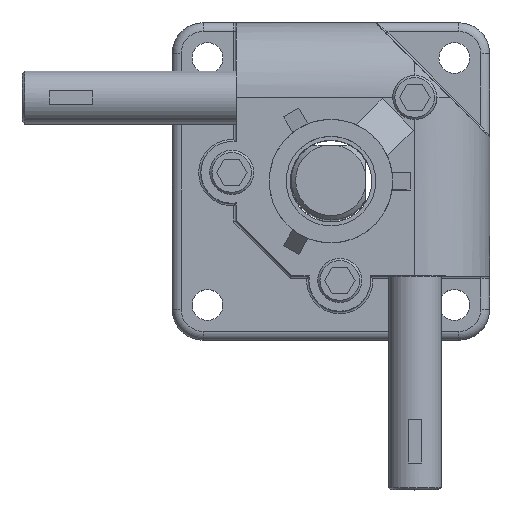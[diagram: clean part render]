
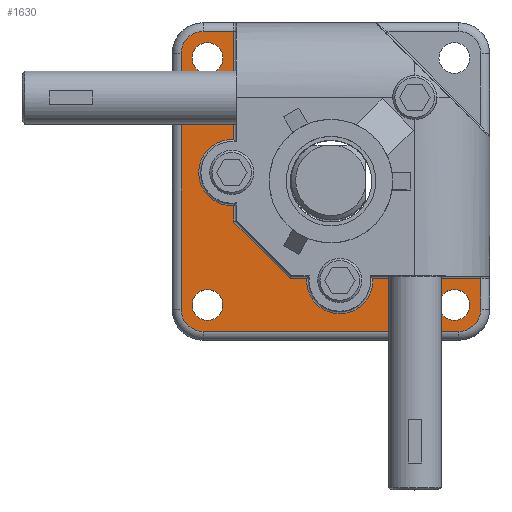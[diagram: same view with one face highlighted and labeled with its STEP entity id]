
A CAD part, top view. The second image highlights one B-rep face of the part: STEP entity #1630.
In plain terms, the highlighted planar face has unit normal (0, 0, 1).
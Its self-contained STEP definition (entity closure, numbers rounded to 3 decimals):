
#1630=ADVANCED_FACE('',(#4866,#4867,#4868,#4869),#4870,.T.);
#4866=FACE_OUTER_BOUND('',#12116,.T.);
#4867=FACE_BOUND('',#12117,.T.);
#4868=FACE_BOUND('',#12118,.T.);
#4869=FACE_BOUND('',#12119,.T.);
#4870=PLANE('',#12120);
#12116=EDGE_LOOP('',(#21582,#21583,#21584,#21585,#21586,#21587,#21588,#21589,#21590,#21591,#21592,#21593,#21594,#21595));
#12117=EDGE_LOOP('',(#21596));
#12118=EDGE_LOOP('',(#21597));
#12119=EDGE_LOOP('',(#21598));
#12120=AXIS2_PLACEMENT_3D('',#21599,#21600,#21601);
#21582=ORIENTED_EDGE('',*,*,#38462,.T.);
#21583=ORIENTED_EDGE('',*,*,#38022,.T.);
#21584=ORIENTED_EDGE('',*,*,#38463,.T.);
#21585=ORIENTED_EDGE('',*,*,#38464,.T.);
#21586=ORIENTED_EDGE('',*,*,#38465,.T.);
#21587=ORIENTED_EDGE('',*,*,#38466,.T.);
#21588=ORIENTED_EDGE('',*,*,#38467,.T.);
#21589=ORIENTED_EDGE('',*,*,#38268,.T.);
#21590=ORIENTED_EDGE('',*,*,#38273,.T.);
#21591=ORIENTED_EDGE('',*,*,#38468,.T.);
#21592=ORIENTED_EDGE('',*,*,#38469,.T.);
#21593=ORIENTED_EDGE('',*,*,#38153,.T.);
#21594=ORIENTED_EDGE('',*,*,#38152,.T.);
#21595=ORIENTED_EDGE('',*,*,#38470,.T.);
#21596=ORIENTED_EDGE('',*,*,#38078,.F.);
#21597=ORIENTED_EDGE('',*,*,#38080,.F.);
#21598=ORIENTED_EDGE('',*,*,#38302,.F.);
#21599=CARTESIAN_POINT('',(0.0,0.0,0.0));
#21600=DIRECTION('',(0.,0.,1.0));
#21601=DIRECTION('',(1.0,0.,0.));
#38022=EDGE_CURVE('',#45771,#45776,#45778,.T.);
#38078=EDGE_CURVE('',#45872,#45872,#45873,.T.);
#38080=EDGE_CURVE('',#45876,#45876,#45877,.T.);
#38152=EDGE_CURVE('',#46000,#46004,#46006,.T.);
#38153=EDGE_CURVE('',#46007,#46000,#46008,.T.);
#38268=EDGE_CURVE('',#46198,#46196,#46199,.T.);
#38273=EDGE_CURVE('',#46196,#46205,#46207,.T.);
#38302=EDGE_CURVE('',#46256,#46256,#46257,.T.);
#38462=EDGE_CURVE('',#46488,#45771,#46489,.T.);
#38463=EDGE_CURVE('',#45776,#46490,#46491,.T.);
#38464=EDGE_CURVE('',#46490,#46492,#46493,.T.);
#38465=EDGE_CURVE('',#46492,#46494,#46495,.T.);
#38466=EDGE_CURVE('',#46494,#46496,#46497,.T.);
#38467=EDGE_CURVE('',#46496,#46198,#46498,.T.);
#38468=EDGE_CURVE('',#46205,#46499,#46500,.T.);
#38469=EDGE_CURVE('',#46499,#46007,#46501,.T.);
#38470=EDGE_CURVE('',#46004,#46488,#46502,.T.);
#45771=VERTEX_POINT('',#58594);
#45776=VERTEX_POINT('',#58599);
#45778=CIRCLE('',#58601,5.0);
#45872=VERTEX_POINT('',#58894);
#45873=CIRCLE('',#58895,3.5);
#45876=VERTEX_POINT('',#58898);
#45877=CIRCLE('',#58899,3.5);
#46000=VERTEX_POINT('',#59155);
#46004=VERTEX_POINT('',#59166);
#46006=CIRCLE('',#59175,7.5);
#46007=VERTEX_POINT('',#59176);
#46008=LINE('',#59177,#59178);
#46196=VERTEX_POINT('',#59662);
#46198=VERTEX_POINT('',#59671);
#46199=LINE('',#59672,#59673);
#46205=VERTEX_POINT('',#59680);
#46207=CIRCLE('',#59689,7.5);
#46256=VERTEX_POINT('',#59772);
#46257=CIRCLE('',#59773,3.5);
#46488=VERTEX_POINT('',#60306);
#46489=LINE('',#60307,#60308);
#46490=VERTEX_POINT('',#60309);
#46491=LINE('',#60310,#60311);
#46492=VERTEX_POINT('',#60312);
#46493=CIRCLE('',#60313,5.0);
#46494=VERTEX_POINT('',#60314);
#46495=LINE('',#60315,#60316);
#46496=VERTEX_POINT('',#60317);
#46497=CIRCLE('',#60318,5.0);
#46498=LINE('',#60319,#60320);
#46499=VERTEX_POINT('',#60321);
#46500=LINE('',#60322,#60323);
#46501=LINE('',#60324,#60325);
#46502=LINE('',#60326,#60327);
#58594=CARTESIAN_POINT('',(-29.0,34.0,0.));
#58599=CARTESIAN_POINT('',(-34.0,29.,0.));
#58601=AXIS2_PLACEMENT_3D('',#75547,#75548,#75549);
#58894=CARTESIAN_POINT('',(-24.5,28.0,0.));
#58895=AXIS2_PLACEMENT_3D('',#75615,#75616,#75617);
#58898=CARTESIAN_POINT('',(-24.5,-28.0,0.));
#58899=AXIS2_PLACEMENT_3D('',#75621,#75622,#75623);
#59155=CARTESIAN_POINT('',(-22.0,-5.483,0.));
#59166=CARTESIAN_POINT('',(-22.0,9.483,0.));
#59175=AXIS2_PLACEMENT_3D('',#75733,#75734,#75735);
#59176=CARTESIAN_POINT('',(-22.0,-9.207,0.));
#59177=CARTESIAN_POINT('',(-22.0,-7.345,0.));
#59178=VECTOR('',#75736,1.0);
#59662=CARTESIAN_POINT('',(9.483,-22.0,0.));
#59671=CARTESIAN_POINT('',(34.0,-22.0,0.0));
#59672=CARTESIAN_POINT('',(21.742,-22.0,0.));
#59673=VECTOR('',#75887,1.0);
#59680=CARTESIAN_POINT('',(-5.483,-22.0,0.));
#59689=AXIS2_PLACEMENT_3D('',#75895,#75896,#75897);
#59772=CARTESIAN_POINT('',(31.5,-28.0,0.));
#59773=AXIS2_PLACEMENT_3D('',#75950,#75951,#75952);
#60306=CARTESIAN_POINT('',(-22.0,34.0,0.));
#60307=CARTESIAN_POINT('',(-25.5,34.0,0.));
#60308=VECTOR('',#76205,1.0);
#60309=CARTESIAN_POINT('',(-34.0,-29.0,0.));
#60310=CARTESIAN_POINT('',(-34.0,0.0,0.));
#60311=VECTOR('',#76206,1.0);
#60312=CARTESIAN_POINT('',(-29.,-34.0,0.));
#60313=AXIS2_PLACEMENT_3D('',#76207,#76208,#76209);
#60314=CARTESIAN_POINT('',(29.0,-34.0,0.));
#60315=CARTESIAN_POINT('',(0.0,-34.0,0.));
#60316=VECTOR('',#76210,1.0);
#60317=CARTESIAN_POINT('',(34.0,-29.,0.));
#60318=AXIS2_PLACEMENT_3D('',#76211,#76212,#76213);
#60319=CARTESIAN_POINT('',(34.0,-25.5,0.0));
#60320=VECTOR('',#76214,1.0);
#60321=CARTESIAN_POINT('',(-9.207,-22.0,0.));
#60322=CARTESIAN_POINT('',(-7.345,-22.0,0.));
#60323=VECTOR('',#76215,1.0);
#60324=CARTESIAN_POINT('',(-15.604,-15.604,0.));
#60325=VECTOR('',#76216,1.0);
#60326=CARTESIAN_POINT('',(-22.0,21.742,0.));
#60327=VECTOR('',#76217,1.0);
#75547=CARTESIAN_POINT('',(-29.0,29.0,0.));
#75548=DIRECTION('',(0.,0.,1.0));
#75549=DIRECTION('',(1.0,0.,0.));
#75615=CARTESIAN_POINT('',(-28.0,28.0,0.));
#75616=DIRECTION('',(0.,0.,1.0));
#75617=DIRECTION('',(1.0,0.,0.));
#75621=CARTESIAN_POINT('',(-28.0,-28.0,0.));
#75622=DIRECTION('',(0.,0.,1.0));
#75623=DIRECTION('',(1.0,0.,0.));
#75733=CARTESIAN_POINT('',(-22.5,2.0,0.));
#75734=DIRECTION('',(0.,0.,-1.0));
#75735=DIRECTION('',(1.0,0.,0.));
#75736=DIRECTION('',(0.0,1.0,0.));
#75887=DIRECTION('',(-1.0,0.0,0.));
#75895=CARTESIAN_POINT('',(2.0,-22.5,0.));
#75896=DIRECTION('',(0.,0.,-1.0));
#75897=DIRECTION('',(1.0,0.,0.));
#75950=CARTESIAN_POINT('',(28.0,-28.0,0.));
#75951=DIRECTION('',(0.,0.,1.0));
#75952=DIRECTION('',(1.0,0.,0.));
#76205=DIRECTION('',(-1.0,0.0,0.));
#76206=DIRECTION('',(0.0,-1.0,0.));
#76207=CARTESIAN_POINT('',(-29.0,-29.0,0.));
#76208=DIRECTION('',(0.,0.,1.0));
#76209=DIRECTION('',(1.0,0.,0.));
#76210=DIRECTION('',(1.0,0.0,0.));
#76211=CARTESIAN_POINT('',(29.0,-29.0,0.));
#76212=DIRECTION('',(0.,0.,1.0));
#76213=DIRECTION('',(1.0,0.,0.));
#76214=DIRECTION('',(0.0,1.0,0.));
#76215=DIRECTION('',(-1.0,0.0,0.));
#76216=DIRECTION('',(-0.707,0.707,0.));
#76217=DIRECTION('',(0.0,1.0,0.));
